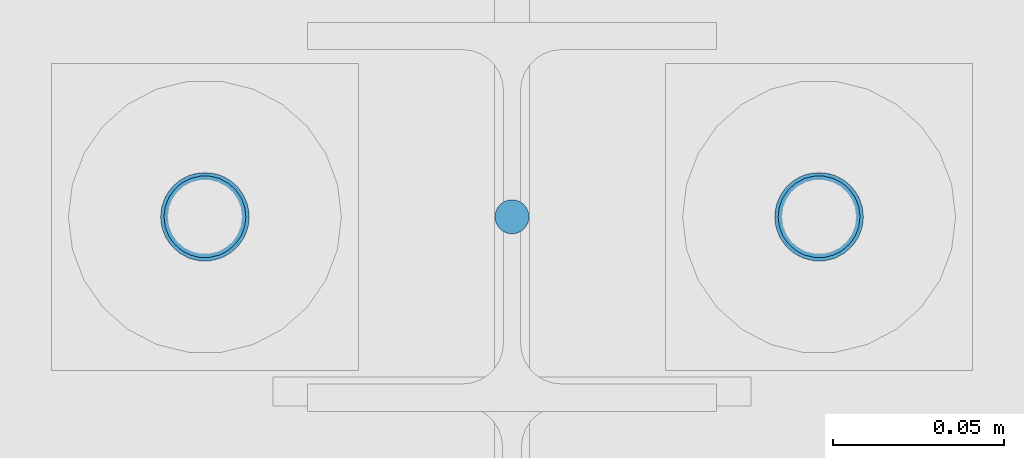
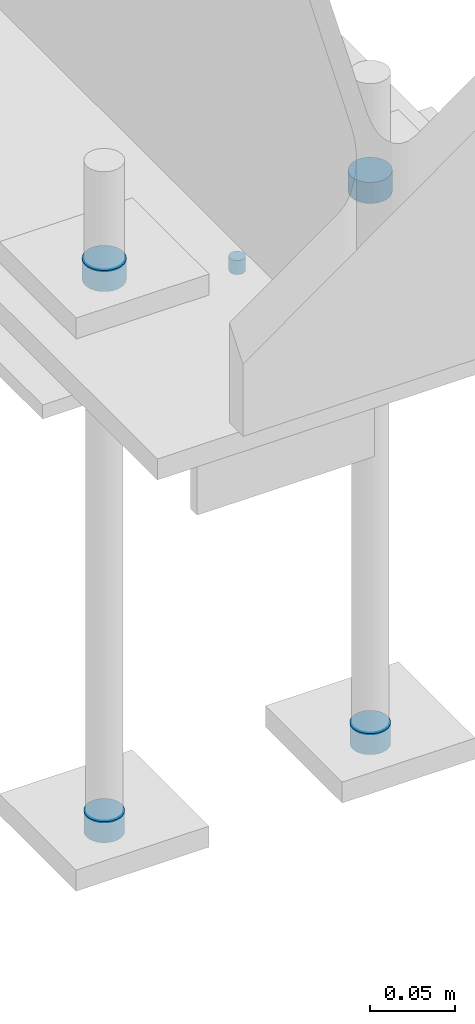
# One storey, part 111 of 123: 5 mechanical fasteners, 1 element without a shape of its own.
"""IFC2X3 building model written with IfcOpenShell, lengths in millimetres."""

from ifc_helpers import new_model, si_unit, frame, origin_with_axes, origin_2d_with_axis, place, context, subcontext, project, spatial, circle, extrude, source, transform, mapped, material, type_object, element, aggregate, save


model = new_model("IFC2X3")

# Units and contexts
model_context = context("Model", 3, precision=1e-05, world=origin_with_axes())
body_context = subcontext(model_context, "Body", "Model", "MODEL_VIEW")
ifc_project = project(units=[si_unit("LENGTHUNIT", "METRE", prefix="MILLI"), si_unit("AREAUNIT", "SQUARE_METRE"), si_unit("VOLUMEUNIT", "CUBIC_METRE"), si_unit("MASSUNIT", "GRAM", prefix="KILO"), si_unit("TIMEUNIT", "SECOND"), si_unit("PLANEANGLEUNIT", "RADIAN"), si_unit("SOLIDANGLEUNIT", "STERADIAN"), si_unit("THERMODYNAMICTEMPERATUREUNIT", "DEGREE_CELSIUS"), si_unit("LUMINOUSINTENSITYUNIT", "LUMEN")], contexts=[model_context])

# Site, building, storey
site_placement = place(None, origin_with_axes())
site = spatial("IfcSite", under=ifc_project, at=site_placement, Name="Undefined", CompositionType="ELEMENT")
building_placement = place(site_placement, origin_with_axes())
building = spatial("IfcBuilding", under=site, at=building_placement, Name="Undefined", CompositionType="ELEMENT")
storey_placement = place(building_placement, origin_with_axes())
storey = spatial("IfcBuildingStorey", under=building, at=storey_placement, Name="Undefined", CompositionType="ELEMENT", Elevation=0.0)

# Assembly, mechanical fasteners
assembly_placement = place(storey_placement, origin_with_axes())
assembly = element("IfcElementAssembly", 1, at=assembly_placement, inside=storey, Name="Steel Assembly", AssemblyPlace="NOTDEFINED", PredefinedType="RIGID_FRAME")
ifc_material = material(Name="6.8")
discrete_accessory_type = type_object("IfcDiscreteAccessoryType", Name="Bolt assembly")
shared_shape_1 = source(origin_with_axes(), body_context, "Body", "SweptSolid", [
    extrude(circle(Radius=13.0, at=origin_2d_with_axis()), frame((0.0, -15.0, 0.0), z_axis=(0.0, 1.0, 0.0), x_axis=(1.0, 0.0, 0.0)), (0.0, 0.0, 1.0), 15.1),
])
mechanical_fastener_1_placement = place(assembly_placement, frame((39539.9971504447, 0.0, -235.0), z_axis=(0.0, -1.0, 0.0), x_axis=(-1.0, 0.0, 0.0)))
mechanical_fastener_1 = element("IfcMechanicalFastener", 2, at=mechanical_fastener_1_placement, type_object=discrete_accessory_type, material=ifc_material, Name="Bolt assembly", NominalDiameter=24.0, NominalLength=15.0, context=body_context, shape_type="MappedRepresentation", body=[
    mapped(shared_shape_1, transform((0.0, 0.0, 0.0))),
])
mechanical_fastener_2_placement = place(assembly_placement, frame((39719.9971504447, 0.0, -235.0), z_axis=(0.0, -1.0, 0.0), x_axis=(-1.0, 0.0, 0.0)))
mechanical_fastener_2 = element("IfcMechanicalFastener", 3, at=mechanical_fastener_2_placement, type_object=discrete_accessory_type, material=ifc_material, Name="Bolt assembly", NominalDiameter=24.0, NominalLength=15.0, context=body_context, shape_type="MappedRepresentation", body=[
    mapped(shared_shape_1, transform((0.0, 0.0, 0.0))),
])
shared_shape_2 = source(origin_with_axes(), body_context, "Body", "SweptSolid", [
    extrude(circle(Radius=12.0, at=origin_2d_with_axis()), frame((0.0, -15.0, 0.0), z_axis=(0.0, 1.0, 0.0), x_axis=(1.0, 0.0, 0.0)), (0.0, 0.0, 1.0), 15.1),
])
mechanical_fastener_3_placement = place(assembly_placement, frame((39539.9971504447, 0.0, -630.0), z_axis=(0.0, -1.0, 0.0), x_axis=(-1.0, 0.0, 0.0)))
mechanical_fastener_3 = element("IfcMechanicalFastener", 4, at=mechanical_fastener_3_placement, type_object=discrete_accessory_type, material=ifc_material, Name="Bolt assembly", NominalDiameter=22.0, NominalLength=15.0, context=body_context, shape_type="MappedRepresentation", body=[
    mapped(shared_shape_2, transform((0.0, 0.0, 0.0))),
])
mechanical_fastener_4_placement = place(assembly_placement, frame((39719.9971504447, 0.0, -630.0), z_axis=(0.0, -1.0, 0.0), x_axis=(-1.0, 0.0, 0.0)))
mechanical_fastener_4 = element("IfcMechanicalFastener", 5, at=mechanical_fastener_4_placement, type_object=discrete_accessory_type, material=ifc_material, Name="Bolt assembly", NominalDiameter=22.0, NominalLength=15.0, context=body_context, shape_type="MappedRepresentation", body=[
    mapped(shared_shape_2, transform((0.0, 0.0, 0.0))),
])
shared_shape_3 = source(origin_with_axes(), body_context, "Body", "SweptSolid", [
    extrude(circle(Radius=5.0, at=origin_2d_with_axis()), frame((0.0, 0.0, 0.0), z_axis=(0.0, 1.0, 0.0), x_axis=(1.0, 0.0, 0.0)), (0.0, 0.0, 1.0), 10.1),
])
mechanical_fastener_5_placement = place(assembly_placement, frame((39630.0000000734, 0.0, -250.0), z_axis=(1.0, 0.0, 0.0), x_axis=(0.0, -1.0, 0.0)))
mechanical_fastener_5 = element("IfcMechanicalFastener", 6, at=mechanical_fastener_5_placement, type_object=discrete_accessory_type, material=ifc_material, Name="Bolt assembly", NominalDiameter=8.0, NominalLength=10.0, context=body_context, shape_type="MappedRepresentation", body=[
    mapped(shared_shape_3, transform((0.0, 0.0, 0.0))),
])
aggregate(assembly, [mechanical_fastener_1, mechanical_fastener_2, mechanical_fastener_3, mechanical_fastener_4, mechanical_fastener_5])

save(model, "model.ifc")
